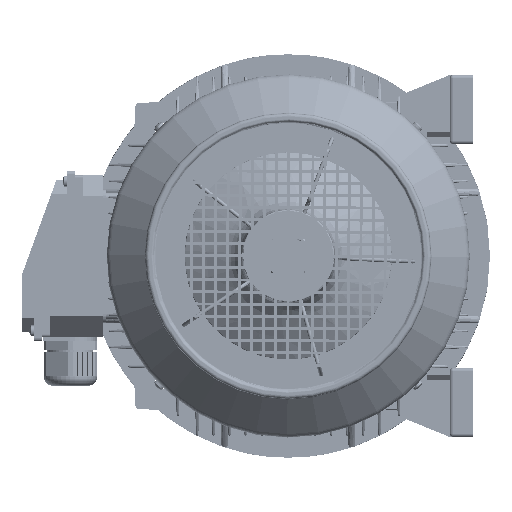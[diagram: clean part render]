
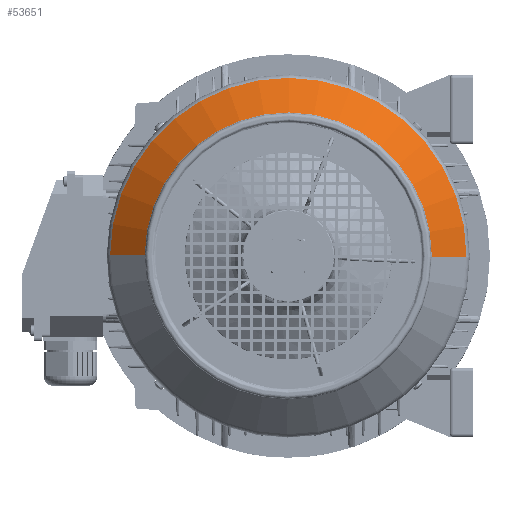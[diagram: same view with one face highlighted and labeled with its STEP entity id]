
A CAD part, left-side view. The second image highlights one B-rep face of the part: STEP entity #53651.
In plain terms, the highlighted conical face has half-angle 45 degrees and reference radius 124.586 mm.
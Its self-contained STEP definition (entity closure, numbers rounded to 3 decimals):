
#34854 = CARTESIAN_POINT ( 'NONE',  ( -256.797, -156.069, -0.812 ) ) ;
#38069 = DIRECTION ( 'NONE',  ( 1., 0., 0. ) ) ;
#41724 = CIRCLE ( 'NONE', #187479, 154.571 ) ;
#53471 = LINE ( 'NONE', #71996, #173910 ) ;
#53651 = ADVANCED_FACE ( 'NONE', ( #233108 ), #209281, .T. ) ;
#61388 = VERTEX_POINT ( 'NONE', #96966 ) ;
#64174 = EDGE_LOOP ( 'NONE', ( #223675, #223803, #165035, #175049 ) ) ;
#67041 = EDGE_CURVE ( 'NONE', #158110, #113324, #41724, .T. ) ;
#71996 = CARTESIAN_POINT ( 'NONE',  ( -286.782, -126.084, -0.655 ) ) ;
#73217 = DIRECTION ( 'NONE',  ( 0.707, -0.707, -0.004 ) ) ;
#77185 = AXIS2_PLACEMENT_3D ( 'NONE', #167676, #38069, #226946 ) ;
#83208 = AXIS2_PLACEMENT_3D ( 'NONE', #215788, #198488, #121941 ) ;
#83751 = DIRECTION ( 'NONE',  ( 0.707, 0.707, 0.004 ) ) ;
#96966 = CARTESIAN_POINT ( 'NONE',  ( -286.782, 123.084, 0.655 ) ) ;
#113324 = VERTEX_POINT ( 'NONE', #34854 ) ;
#114027 = DIRECTION ( 'NONE',  ( 1., 0., 0. ) ) ;
#121941 = DIRECTION ( 'NONE',  ( 0., -1., -0.005 ) ) ;
#139313 = CARTESIAN_POINT ( 'NONE',  ( -286.782, 123.084, 0.655 ) ) ;
#145416 = CARTESIAN_POINT ( 'NONE',  ( -286.782, -126.084, -0.655 ) ) ;
#148089 = VERTEX_POINT ( 'NONE', #145416 ) ;
#158110 = VERTEX_POINT ( 'NONE', #206777 ) ;
#165035 = ORIENTED_EDGE ( 'NONE', *, *, #167085, .T. ) ;
#167085 = EDGE_CURVE ( 'NONE', #148089, #113324, #53471, .T. ) ;
#167676 = CARTESIAN_POINT ( 'NONE',  ( -286.782, -1.5, 0. ) ) ;
#169462 = EDGE_CURVE ( 'NONE', #61388, #158110, #194892, .T. ) ;
#171963 = CARTESIAN_POINT ( 'NONE',  ( -256.797, -1.5, 0. ) ) ;
#173910 = VECTOR ( 'NONE', #73217, 1000. ) ;
#175049 = ORIENTED_EDGE ( 'NONE', *, *, #67041, .F. ) ;
#179163 = CIRCLE ( 'NONE', #77185, 124.586 ) ;
#187479 = AXIS2_PLACEMENT_3D ( 'NONE', #171963, #114027, #207870 ) ;
#193077 = EDGE_CURVE ( 'NONE', #61388, #148089, #179163, .T. ) ;
#194892 = LINE ( 'NONE', #139313, #217455 ) ;
#198488 = DIRECTION ( 'NONE',  ( 1., 0., 0. ) ) ;
#206777 = CARTESIAN_POINT ( 'NONE',  ( -256.797, 153.069, 0.812 ) ) ;
#207870 = DIRECTION ( 'NONE',  ( 0., -1., -0.005 ) ) ;
#209281 = CONICAL_SURFACE ( 'NONE', #83208, 124.586, 0.785 ) ;
#215788 = CARTESIAN_POINT ( 'NONE',  ( -286.782, -1.5, 0. ) ) ;
#217455 = VECTOR ( 'NONE', #83751, 1000. ) ;
#223675 = ORIENTED_EDGE ( 'NONE', *, *, #169462, .F. ) ;
#223803 = ORIENTED_EDGE ( 'NONE', *, *, #193077, .T. ) ;
#226946 = DIRECTION ( 'NONE',  ( 0., -1., -0.005 ) ) ;
#233108 = FACE_OUTER_BOUND ( 'NONE', #64174, .T. ) ;
